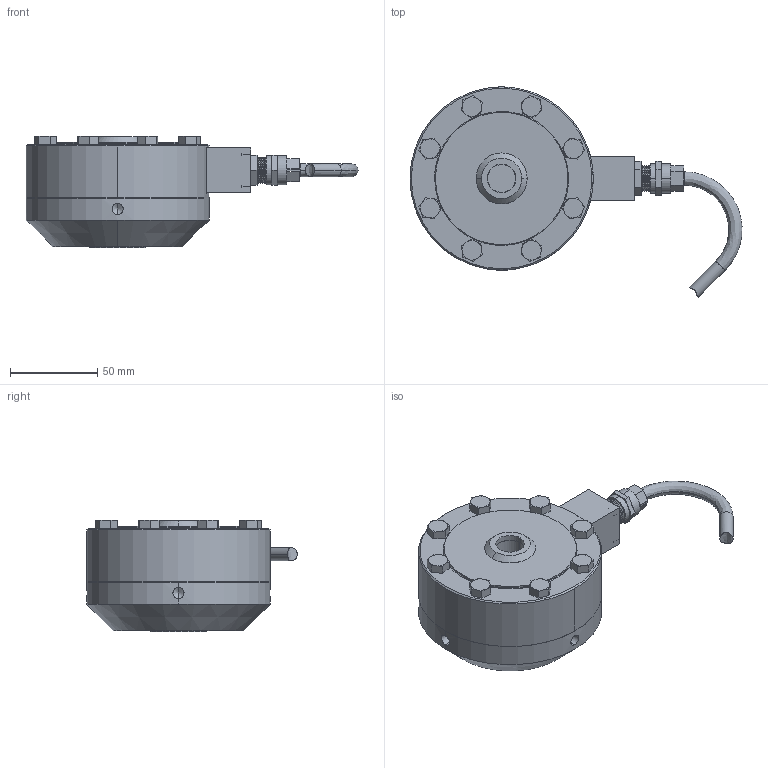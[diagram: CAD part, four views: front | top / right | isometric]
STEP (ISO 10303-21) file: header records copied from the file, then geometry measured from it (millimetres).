
FILE_DESCRIPTION (( 'STEP AP203' ), '1' );
FILE_NAME ('Interface 3210-2.5K THRU -10K-B.STEP', '2012-05-23T21:37:24', ( ' ' ), ( '' ), 'SwSTEP 2.0', 'SolidWorks 2002349', '' );
FILE_SCHEMA (( 'CONFIG_CONTROL_DESIGN' ));
Length unit declared in the file: inch
Products named in the file (1): Interface 3210-2.5K THRU -10K-B
Bounding box: 189.78 x 120.2 x 63.98 mm (x, y, z)
Volume: 494375.8 mm3; surface area: 45776.5 mm2
Topology: 1 solids, 1 shells, 305 faces, 721 edges, 446 vertices
Faces by surface type: plane 145, cone 97, cylinder 50, bspline 13
Entity records: 9282 total; most frequent: CARTESIAN_POINT 2383, ORIENTED_EDGE 1426, DIRECTION 1377, EDGE_CURVE 713, AXIS2_PLACEMENT_3D 506, VERTEX_POINT 446, LINE 365, VECTOR 365
